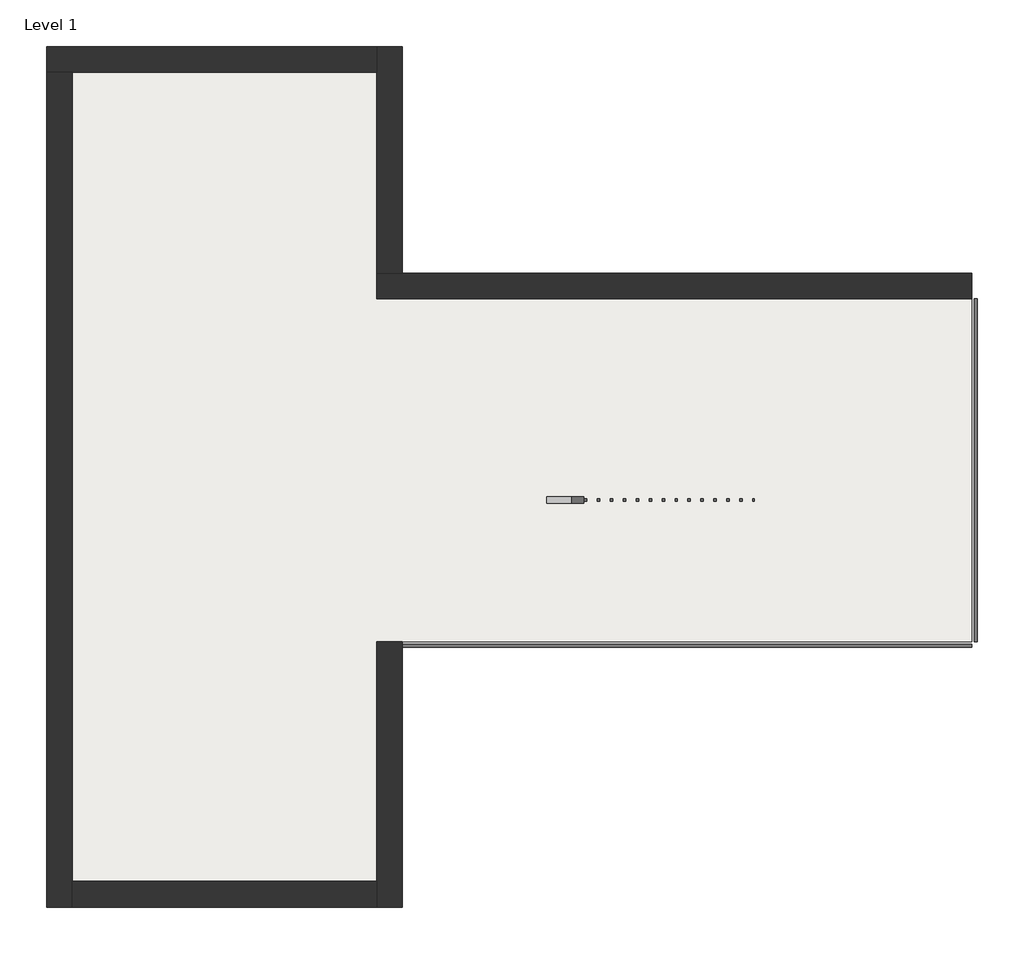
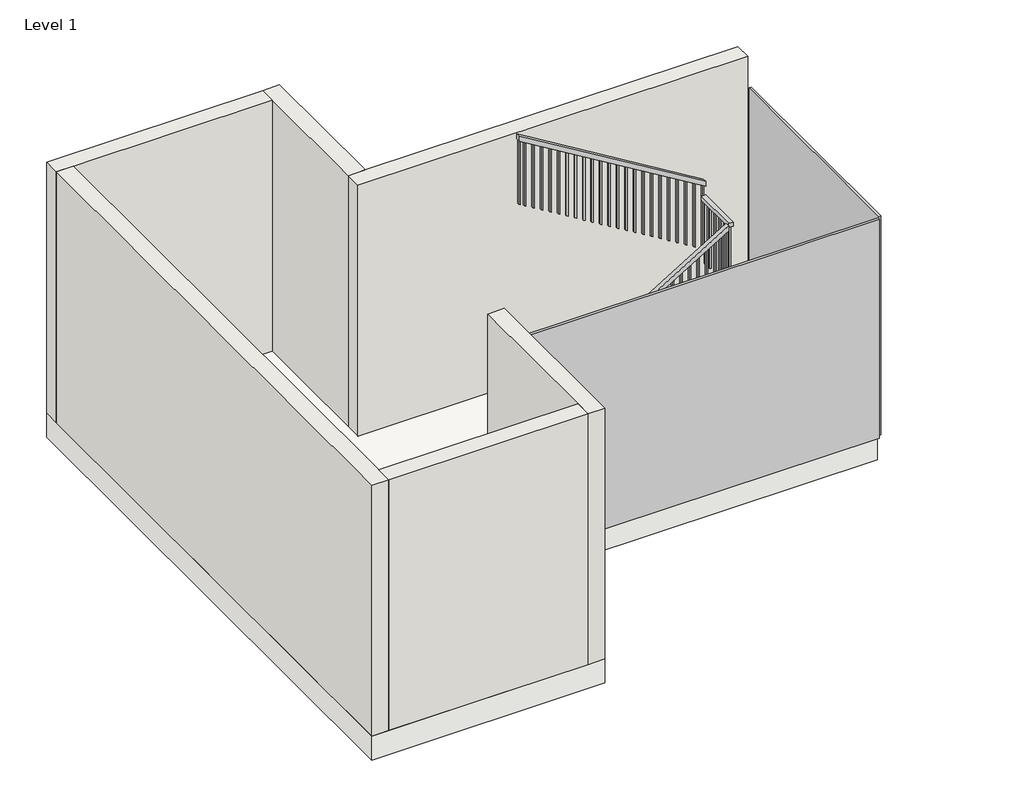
# One storey: 6 walls, 2 plates, 1 railing, 1 slab.
"""IFC4 building model written with IfcOpenShell, lengths in millimetres."""

from ifc_helpers import new_model, si_unit, frame, origin, origin_with_axes, place, context, project, spatial, polyline, outline, extrude, faceted_brep, transform, mapped, element, save
from components import system_panel_glazed_bbaa7a8e, system_panel_glazed_8f60b1b7, handrail_rectangular_d4d9ffba

model = new_model("IFC4")

# Units and contexts
model_context = context("Model", 3, world=origin())
ifc_project = project(units=[si_unit("LENGTHUNIT", "METRE", prefix="MILLI")], contexts=[model_context])

# Site, building, storey
site = spatial("IfcSite", under=ifc_project)
building = spatial("IfcBuilding", under=site)
storey = spatial("IfcBuildingStorey", under=building, Name="Level 1", Elevation=0.0)

# Plates
placement = place(None, origin())
system_panel_glazed_shape = system_panel_glazed_bbaa7a8e(model_context)
element("IfcPlate", 1, ObjectType="System Panel : Glazed", at=placement, inside=storey, context=model_context, shape_type="MappedRepresentation", body=[
    mapped(system_panel_glazed_shape, transform((-2555.4972322, 1291.3543518, 0.0), x_axis=(-1.0, 0.0, 0.0), y_axis=(0.0, -1.0, 0.0), z_axis=(0.0, 0.0, 1.0))),
])
system_panel_glazed_2_shape = system_panel_glazed_8f60b1b7(model_context)
element("IfcPlate", 2, ObjectType="System Panel : Glazed", at=placement, inside=storey, context=model_context, shape_type="MappedRepresentation", body=[
    mapped(system_panel_glazed_2_shape, transform((-320.2972322, 2637.5543518, 0.0), x_axis=(0.0, -1.0, 0.0), y_axis=(1.0, 0.0, 0.0), z_axis=(0.0, 0.0, 1.0))),
])

# Railing
handrail_rectangular_shape = handrail_rectangular_d4d9ffba(model_context)
element("IfcRailing", 3, ObjectType="Handrail - Rectangular", at=placement, inside=storey, context=model_context, shape_type="MappedRepresentation", body=[
    mapped(handrail_rectangular_shape, transform((0.0, 0.0, 0.0), x_axis=(1.0, 0.0, 0.0), y_axis=(0.0, 1.0, 0.0), z_axis=(0.0, 0.0, 1.0))),
])

# Slab
element("IfcSlab", 4, ObjectType="Generic - 12\"", at=placement, inside=storey, context=model_context, shape_type="SweptSolid", body=[
    extrude(outline(polyline([(-7584.6972322, 5964.9543518), (-4790.6972322, 5964.9543518), (-4790.6972322, 4186.9543518), (-320.2972322, 4186.9543518), (-320.2972322, 1291.3543518), (-4790.6972322, 1291.3543518), (-4790.6972322, -791.4456482), (-7584.6972322, -791.4456482), (-7584.6972322, 5964.9543518)])), frame((0.0, 0.0, -304.8), z_axis=(0.0, 0.0, 1.0), x_axis=(1.0, 0.0, 0.0)), (0.0, 0.0, 1.0), 304.8),
])

# Walls
element("IfcWall", 5, ObjectType="Generic - 8\"", at=placement, inside=storey, context=model_context, shape_type="Brep", body=[
    faceted_brep([(-4993.8972322, 3983.7543518, 0.0), (-320.2972322, 3983.7543518, 0.0), (-320.2972322, 3983.7543518, 3181.35), (-4993.8972322, 3983.7543518, 3181.35), (-4993.8972322, 4186.9543518, 0.0), (-4993.8972322, 4186.9543518, 3181.35), (-4790.6972322, 4186.9543518, 3181.35), (-320.2972322, 4186.9543518, 3181.35), (-320.2972322, 4186.9543518, 0.0), (-4790.6972322, 4186.9543518, 0.0)], [[[0, 1, 2, 3]], [[4, 5, 6, 7, 8, 9]], [[1, 0, 4, 9, 8]], [[2, 1, 8, 7]], [[3, 2, 7, 6, 5]], [[0, 3, 5, 4]]]),
])
element("IfcWall", 6, ObjectType="Generic - 8\"", at=placement, inside=storey, context=model_context, shape_type="Brep", body=[
    faceted_brep([(-4993.8972322, 1291.3543518, 0.0), (-4993.8972322, -588.2456482, 0.0), (-4993.8972322, -791.4456482, 0.0), (-4993.8972322, -791.4456482, 3181.35), (-4993.8972322, -588.2456482, 3181.35), (-4993.8972322, 1291.3543518, 3181.35), (-4790.6972322, 1291.3543518, 0.0), (-4790.6972322, 1291.3543518, 3181.35), (-4790.6972322, -791.4456482, 3181.35), (-4790.6972322, -791.4456482, 0.0)], [[[0, 1, 2, 3, 4, 5]], [[6, 7, 8, 9]], [[2, 1, 0, 6, 9]], [[5, 4, 3, 8, 7]], [[0, 5, 7, 6]], [[3, 2, 9, 8]]]),
])
element("IfcWall", 7, ObjectType="Generic - 8\"", at=placement, inside=storey, context=model_context, shape_type="Brep", body=[
    faceted_brep([(-4790.6972322, 4186.9543518, 0.0), (-4790.6972322, 5964.9543518, 0.0), (-4790.6972322, 5964.9543518, 3181.35), (-4790.6972322, 4186.9543518, 3181.35), (-4993.8972322, 4186.9543518, 0.0), (-4993.8972322, 4186.9543518, 3181.35), (-4993.8972322, 5761.7543518, 3181.35), (-4993.8972322, 5964.9543518, 3181.35), (-4993.8972322, 5964.9543518, 0.0), (-4993.8972322, 5761.7543518, 0.0)], [[[0, 1, 2, 3]], [[4, 5, 6, 7, 8, 9]], [[1, 0, 4, 9, 8]], [[3, 2, 7, 6, 5]], [[2, 1, 8, 7]], [[0, 3, 5, 4]]]),
])
element("IfcWall", 8, ObjectType="Generic - 8\"", at=placement, inside=storey, context=model_context, shape_type="Brep", body=[
    faceted_brep([(-4993.8972322, 5964.9543518, 0.0), (-7584.6972322, 5964.9543518, 0.0), (-7584.6972322, 5964.9543518, 3181.35), (-4993.8972322, 5964.9543518, 3181.35), (-4993.8972322, 5761.7543518, 0.0), (-4993.8972322, 5761.7543518, 3181.35), (-7381.4972322, 5761.7543518, 3181.35), (-7584.6972322, 5761.7543518, 3181.35), (-7584.6972322, 5761.7543518, 0.0), (-7381.4972322, 5761.7543518, 0.0)], [[[0, 1, 2, 3]], [[4, 5, 6, 7, 8, 9]], [[1, 0, 4, 9, 8]], [[3, 2, 7, 6, 5]], [[2, 1, 8, 7]], [[0, 3, 5, 4]]]),
])
element("IfcWall", 9, ObjectType="Generic - 8\"", at=placement, inside=storey, context=model_context, shape_type="Brep", body=[
    faceted_brep([(-7584.6972322, 5761.7543518, 0.0), (-7584.6972322, -791.4456482, 0.0), (-7584.6972322, -791.4456482, 3181.35), (-7584.6972322, 5761.7543518, 3181.35), (-7381.4972322, 5761.7543518, 0.0), (-7381.4972322, 5761.7543518, 3181.35), (-7381.4972322, -588.2456482, 3181.35), (-7381.4972322, -791.4456482, 3181.35), (-7381.4972322, -791.4456482, 0.0), (-7381.4972322, -588.2456482, 0.0)], [[[0, 1, 2, 3]], [[4, 5, 6, 7, 8, 9]], [[1, 0, 4, 9, 8]], [[3, 2, 7, 6, 5]], [[2, 1, 8, 7]], [[0, 3, 5, 4]]]),
])
element("IfcWall", 10, ObjectType="Generic - 8\"", at=placement, inside=storey, context=model_context, shape_type="SweptSolid", body=[
    extrude(outline(polyline([(-4993.8972322, -791.4456482), (-7381.4972322, -791.4456482), (-7381.4972322, -588.2456482), (-4993.8972322, -588.2456482), (-4993.8972322, -791.4456482)])), origin_with_axes(), (0.0, 0.0, 1.0), 3181.35),
])

save(model, "model.ifc")
